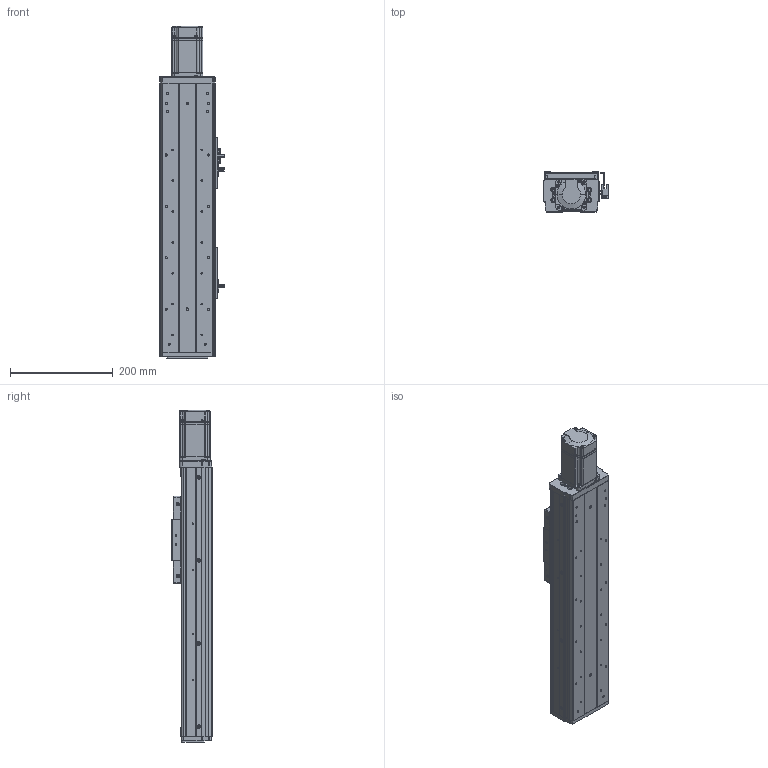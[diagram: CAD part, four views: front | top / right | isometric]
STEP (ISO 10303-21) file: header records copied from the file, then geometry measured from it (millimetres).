
FILE_DESCRIPTION (( 'STEP AP203' ), '1' );
FILE_NAME ('RY100FS-300-MK(15双轨).SLDASM_250.step', '2021-03-02T05:50:30', ( '盈信电脑' ), ( '东莞市道滘镇水果街19号' ), 'SwSTEP 2.0', 'SolidWorks 2012', '' );
FILE_SCHEMA (( 'CONFIG_CONTROL_DESIGN' ));
Products named in the file (20): RY100FS-300-MK(15邧寢).SLDASM_250; RY100FS-双轨螺母座(16丝杆）; 滅袉蝶14-35; 滅袉蝶14-24; RY100FS-15絳寢萇儂假蚾啣(200W PCD70 M4); RY80俋离覜茼え; RY100F-詩湍揤踡輸; 覜茼ん672; 侂狟200W萇儂; RY100F-綴裔啣; 672嫖萇羲壽假蚾釱; 棠沺沭; RY100F-詩湍幗謫粣; RY100F-詩湍揤踡謫; 1; RY100FS-300-MK15絳寢倰第奻裔啣_250; RY100FS-300-MK15邧寢祥凄詩湍_250; RY100FS-双轨铝滑块(上板）; RY100F-滅鳥裔啣; RY100FS-300-MK15絳寢倰第菁釱_250
Assembly tree (27 placements, depth 3):
  RY100FS-300-MK(15邧寢).SLDASM_250
    RY100FS-300-MK15絳寢倰第菁釱_250
    RY100FS-300-MK15絳寢倰第奻裔啣_250  x2
    RY100FS-300-MK15邧寢祥凄詩湍_250
    RY100FS-双轨铝滑块(上板）
    RY100F-滅鳥裔啣
    棠沺沭  x2
    RY100F-詩湍幗謫粣
    RY100F-詩湍揤踡謫  x2
    侂狟200W萇儂
      1
    RY100F-綴裔啣
    672嫖萇羲壽假蚾釱  x2
    RY80俋离覜茼え  x2
    覜茼ん672  x3
    RY100F-詩湍揤踡輸  x2
    RY100FS-15絳寢萇儂假蚾啣(200W PCD70 M4)
    RY100FS-双轨螺母座(16丝杆）
    滅袉蝶14-24
    滅袉蝶14-35
Bounding box: 126.2 x 78.5 x 646 mm (x, y, z)
Volume: 1639051.6 mm3; surface area: 623504.1 mm2
Topology: 26 solids, 26 shells, 1941 faces, 5250 edges, 3409 vertices
Faces by surface type: plane 958, cylinder 822, cone 136, bspline 25
Entity records: 54123 total; most frequent: CARTESIAN_POINT 10712, DIRECTION 8661, ORIENTED_EDGE 8480, EDGE_CURVE 4240, AXIS2_PLACEMENT_3D 3032, VERTEX_POINT 2789, VECTOR 2597, LINE 2597
